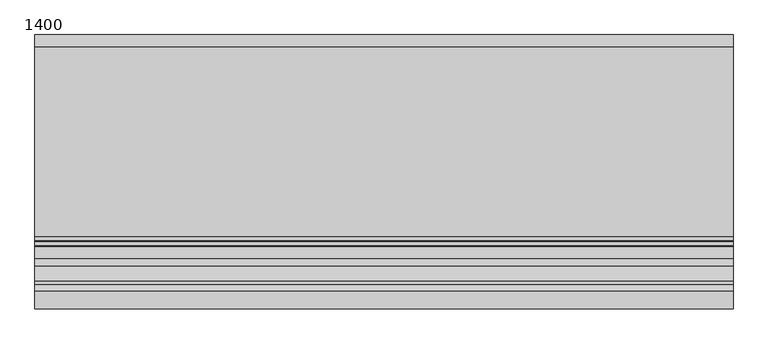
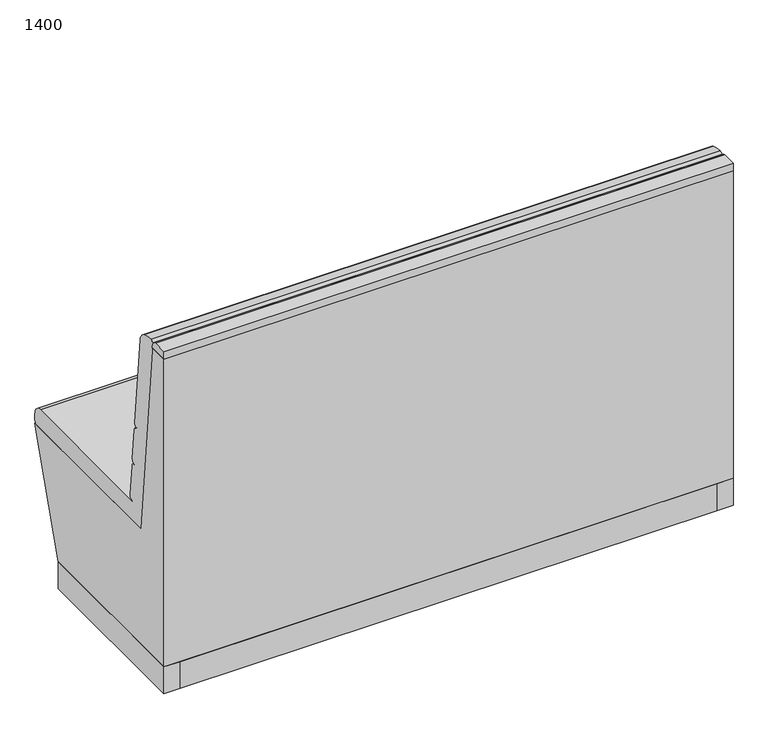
"""IFC4 building model written with IfcOpenShell, lengths in millimetres: furniture geometry, TN.RES.Bench04 : 1400."""

from ifc_helpers import new_model, si_unit, point, frame, frame_2d, origin, origin_with_axes, place, context, project, spatial, polyline, circle_curve, trimmed, segment, composite_curve, outline, extrude, source, transform, mapped, element, save


def furniture_1400_a287dd1e(model_context):
    return source(origin(), model_context, "Body", "SweptSolid", [
        extrude(outline(polyline([(1300.0, 50.0), (1280.0, 50.0), (1280.0, 70.0), (1300.0, 70.0), (1300.0, 50.0)])), origin_with_axes(), (0.0, 0.0, 1.0), 10.0),
        extrude(outline(polyline([(1300.0, 380.0), (1280.0, 380.0), (1280.0, 400.0), (1300.0, 400.0), (1300.0, 380.0)])), origin_with_axes(), (0.0, 0.0, 1.0), 10.0),
        extrude(outline(polyline([(120.0, 50.0), (100.0, 50.0), (100.0, 70.0), (120.0, 70.0), (120.0, 50.0)])), origin_with_axes(), (0.0, 0.0, 1.0), 10.0),
        extrude(outline(polyline([(120.0, 380.0), (100.0, 380.0), (100.0, 400.0), (120.0, 400.0), (120.0, 380.0)])), origin_with_axes(), (0.0, 0.0, 1.0), 10.0),
        extrude(outline(composite_curve([segment(polyline([(0.0, 900.0), (35.0082209, 900.0)]), True, "CONTINUOUS"), segment(trimmed(circle_curve(frame_2d((34.2247096, 885.3937005)), 14.6272989), [point((35.0082209, 900.0))], [point((47.6821648, 891.1256089))], False, "CARTESIAN"), True, "CONTINUOUS"), segment(polyline([(47.6821648, 891.1256089), (49.5309963, 882.2512179), (47.2797784, 880.0), (0.0, 880.0), (0.0, 900.0)]), True, "CONTINUOUS")], self_intersect=False)), frame((0.0, 0.0, 0.0), z_axis=(1.0, 0.0, 0.0), x_axis=(0.0, 1.0, 0.0)), (0.0, 0.0, 1.0), 1400.0),
        extrude(outline(polyline([(1360.0, 0.0), (40.0, 0.0), (40.0, 20.0), (1360.0, 20.0), (1360.0, 0.0)])), frame((0.0, 0.0, 10.0), z_axis=(0.0, 0.0, 1.0), x_axis=(1.0, 0.0, 0.0)), (0.0, 0.0, 1.0), 70.0),
        extrude(outline(polyline([(1400.0, 450.0), (1400.0, 0.0), (1360.0, 0.0), (1360.0, 20.0), (40.0, 20.0), (40.0, 0.0), (0.0, 0.0), (0.0, 450.0), (1400.0, 450.0)])), frame((0.0, 0.0, 10.0), z_axis=(0.0, 0.0, 1.0), x_axis=(1.0, 0.0, 0.0)), (0.0, 0.0, 1.0), 70.0),
        extrude(outline(composite_curve([segment(polyline([(540.0, 380.0), (100.0, 380.0), (48.5910893, 894.0891073)]), True, "CONTINUOUS"), segment(trimmed(circle_curve(frame_2d((55.2477197, 890.8293765)), 7.411921), [point((48.5910893, 894.0891073))], [point((55.171273, 898.2409032))], False, "CARTESIAN"), True, "CONTINUOUS"), segment(trimmed(circle_curve(frame_2d((55.8907781, 828.4846969)), 69.759917), [point((55.171273, 898.2409032))], [point((85.1383801, 891.8173409))], False, "CARTESIAN"), True, "CONTINUOUS"), segment(trimmed(circle_curve(frame_2d((73.3389833, 866.2669727)), 28.143331), [point((85.1383801, 891.8173409))], [point((101.3426442, 869.0673388))], False, "CARTESIAN"), True, "CONTINUOUS"), segment(polyline([(101.3426442, 869.0673388), (124.2491306, 640.0024752)]), True, "CONTINUOUS"), segment(trimmed(circle_curve(frame_2d((114.2987587, 639.007438)), 10.0), [point((124.2491306, 640.0024752))], [point((116.2789567, 629.2054578))], False, "CARTESIAN"), True, "CONTINUOUS"), segment(trimmed(circle_curve(frame_2d((116.2789567, 619.2054578)), 10.0), [point((116.2789567, 629.2054578))], [point((126.2293286, 620.200495))], False, "CARTESIAN"), True, "CONTINUOUS"), segment(polyline([(126.2293286, 620.200495), (134.1995025, 540.4987562)]), True, "CONTINUOUS"), segment(trimmed(circle_curve(frame_2d((124.2491306, 539.503719)), 10.0), [point((134.1995025, 540.4987562))], [point((126.2293286, 529.7017388))], False, "CARTESIAN"), True, "CONTINUOUS"), segment(trimmed(circle_curve(frame_2d((126.2293286, 519.7017388)), 10.0), [point((126.2293286, 529.7017388))], [point((136.1797005, 520.696776))], False, "CARTESIAN"), True, "CONTINUOUS"), segment(polyline([(136.1797005, 520.696776), (144.1498744, 440.9950372)]), True, "CONTINUOUS"), segment(trimmed(circle_curve(frame_2d((134.1995025, 440.0)), 10.0), [point((144.1498744, 440.9950372))], [point((134.1995025, 430.0))], False, "CARTESIAN"), True, "CONTINUOUS"), segment(polyline([(134.1995025, 430.0), (525.0, 430.0)]), True, "CONTINUOUS"), segment(trimmed(circle_curve(frame_2d((525.0, 405.0)), 25.0), [point((525.0, 430.0))], [point((550.0, 405.0))], False, "CARTESIAN"), True, "CONTINUOUS"), segment(polyline([(550.0, 405.0), (550.0, 390.0)]), True, "CONTINUOUS"), segment(trimmed(circle_curve(frame_2d((540.0, 390.0)), 10.0), [point((550.0, 390.0))], [point((540.0, 380.0))], False, "CARTESIAN"), True, "CONTINUOUS")], self_intersect=False)), frame((0.0, 0.0, 0.0), z_axis=(1.0, 0.0, 0.0), x_axis=(0.0, 1.0, 0.0)), (0.0, 0.0, 1.0), 1400.0),
        extrude(outline(polyline([(450.0, 80.0), (0.0, 80.0), (0.0, 880.0), (50.0, 880.0), (100.0, 380.0), (550.0, 380.0), (450.0, 80.0)])), frame((0.0, 0.0, 0.0), z_axis=(1.0, 0.0, 0.0), x_axis=(0.0, 1.0, 0.0)), (0.0, 0.0, 1.0), 1400.0),
    ])


if __name__ == "__main__":
    model = new_model("IFC4")
    model_context = context("Model", 3, world=origin())
    ifc_project = project(units=[si_unit("LENGTHUNIT", "METRE", prefix="MILLI")], contexts=[model_context])
    site = spatial("IfcSite", under=ifc_project)
    building = spatial("IfcBuilding", under=site)
    placement = place(None, origin())
    furniture_1400_shape = furniture_1400_a287dd1e(model_context)
    element("IfcFurniture", 1, ObjectType="TN.RES.Bench04 : 1400", at=placement, inside=building, context=model_context, shape_type="MappedRepresentation", body=[
        mapped(furniture_1400_shape, transform((0.0, 0.0, 0.0), x_axis=(1.0, 0.0, 0.0), y_axis=(0.0, 1.0, 0.0), z_axis=(0.0, 0.0, 1.0))),
    ])
    save(model, "model.ifc")
